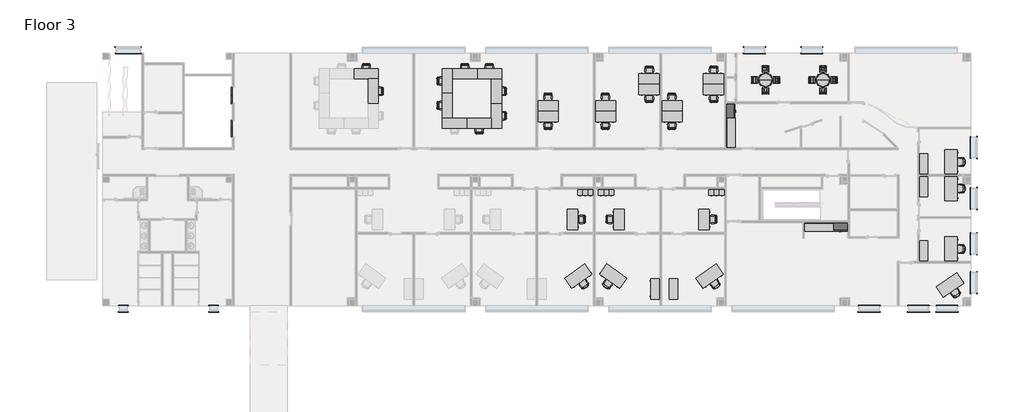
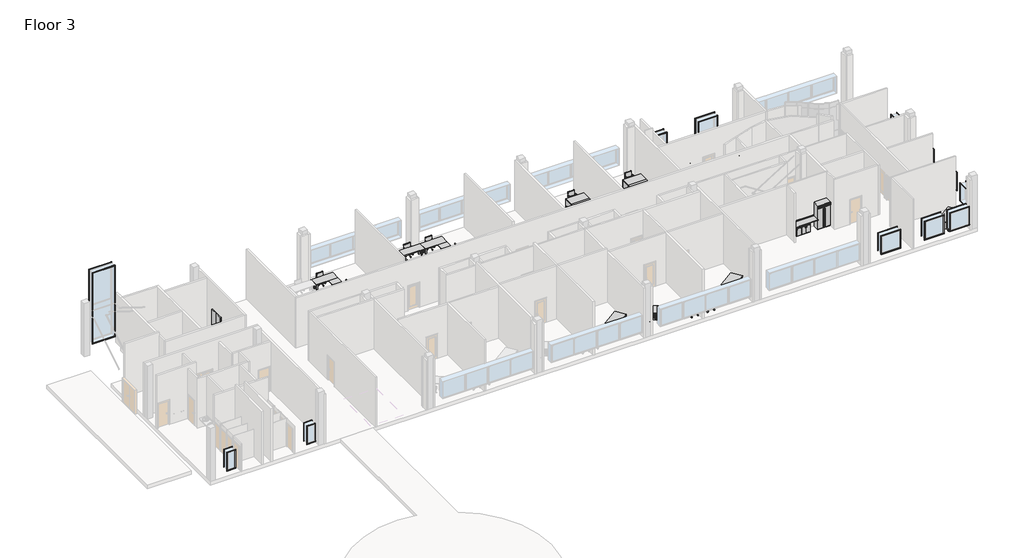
# One storey, part 6 of 6: 89 furniture elements, 28 proxies.
"""IFC4 building model written with IfcOpenShell, lengths in millimetres."""

from ifc_helpers import new_model, si_unit, origin, place, context, project, spatial, transform, mapped, element, save
from components import proxy_ae548678, proxy_0447ab4b, trim_window_exterior_flat_with_sill_05ca63db, trim_window_exterior_flat_with_sill_953729a5, trim_window_exterior_flat_with_sill_4912eb0d, trim_window_interior_flat_picture_frame_a1a3bc7c, trim_window_interior_flat_picture_frame_4e25f6c2, trim_window_interior_flat_picture_frame_978fd00d, furniture_338da5bd, furniture_552c1472, furniture_48aa8ab9, chair_executive_chair_executive_8d69e98c, chair_executive_chair_executive_a5be4872, chair_stacking_chair_stacking_76f41a28, chair_task_arms_chair_task_arms_fa5a08ef, chair_task_arms_chair_task_arms_3c69ee15, furniture_b725675f, furniture_6bf0da8d, furniture_0f0bb7e9, furniture_a9e97cbc, furniture_f1eb905c, furniture_e30ff25b, furniture_33f25304, furniture_65204735, furniture_a5b052b6, furniture_77f0a01d

model = new_model("IFC4")

# Units and contexts
model_context = context("Model", 3, world=origin())
ifc_project = project(units=[si_unit("LENGTHUNIT", "METRE", prefix="MILLI")], contexts=[model_context])

# Site, building, storey
site = spatial("IfcSite", under=ifc_project)
building = spatial("IfcBuilding", under=site)
storey = spatial("IfcBuildingStorey", under=building, Name="Floor 3", Elevation=10210.8)

# Proxies
placement = place(None, origin())
proxy_shape = proxy_ae548678(model_context)
element("IfcBuildingElementProxy", 1, Name="Elevator-Center : 72\" x 114\" Hospital min.", ObjectType="Elevator-Center : 72\" x 114\" Hospital min.", at=placement, inside=storey, context=model_context, shape_type="MappedRepresentation", body=[
    mapped(proxy_shape, transform((6707.2192024, 51882.5975333, 10210.8), x_axis=(0.0, 1.0, 0.0), y_axis=(-1.0, 0.0, 0.0), z_axis=(0.0, 0.0, 1.0))),
])
element("IfcBuildingElementProxy", 2, Name="Elevator-Center : 72\" x 114\" Hospital min.", ObjectType="Elevator-Center : 72\" x 114\" Hospital min.", at=placement, inside=storey, context=model_context, shape_type="MappedRepresentation", body=[
    mapped(proxy_shape, transform((6707.2192024, 54320.9975333, 10210.8), x_axis=(0.0, 1.0, 0.0), y_axis=(-1.0, 0.0, 0.0), z_axis=(0.0, 0.0, 1.0))),
])
proxy_2_shape = proxy_0447ab4b(model_context)
element("IfcBuildingElementProxy", 3, Name="Refrigerator-Side-by-Side : 42\" Left Side Freezer", ObjectType="Refrigerator-Side-by-Side : 42\" Left Side Freezer", at=placement, inside=storey, context=model_context, shape_type="MappedRepresentation", body=[
    mapped(proxy_2_shape, transform((51838.2567024, 44868.311889, 10210.8), x_axis=(1.0, 0.0, 0.0), y_axis=(0.0, 1.0, 0.0), z_axis=(0.0, 0.0, 1.0))),
])
element("IfcBuildingElementProxy", 4, Name="Refrigerator-Side-by-Side : 42\" Left Side Freezer", ObjectType="Refrigerator-Side-by-Side : 42\" Left Side Freezer", at=placement, inside=storey, context=model_context, shape_type="MappedRepresentation", body=[
    mapped(proxy_2_shape, transform((43251.4692024, 53086.799389, 10210.8), x_axis=(0.0, 1.0, 0.0), y_axis=(-1.0, 0.0, 0.0), z_axis=(0.0, 0.0, 1.0))),
])
trim_window_exterior_flat_with_sill_shape = trim_window_exterior_flat_with_sill_05ca63db(model_context)
element("IfcBuildingElementProxy", 5, Name="Trim-Window-Exterior-Flat : with Sill", ObjectType="Trim-Window-Exterior-Flat : with Sill", at=placement, inside=storey, context=model_context, shape_type="MappedRepresentation", body=[
    mapped(trim_window_exterior_flat_with_sill_shape, transform((61956.9817024, 43210.961889, 12649.2), x_axis=(0.0, 1.0, 0.0), y_axis=(0.0, 0.0, 1.0), z_axis=(1.0, 0.0, 0.0))),
])
element("IfcBuildingElementProxy", 6, Name="Trim-Window-Exterior-Flat : with Sill", ObjectType="Trim-Window-Exterior-Flat : with Sill", at=placement, inside=storey, context=model_context, shape_type="MappedRepresentation", body=[
    mapped(trim_window_exterior_flat_with_sill_shape, transform((61956.9817024, 46563.761889, 12649.2), x_axis=(0.0, 1.0, 0.0), y_axis=(0.0, 0.0, 1.0), z_axis=(1.0, 0.0, 0.0))),
])
element("IfcBuildingElementProxy", 7, Name="Trim-Window-Exterior-Flat : with Sill", ObjectType="Trim-Window-Exterior-Flat : with Sill", at=placement, inside=storey, context=model_context, shape_type="MappedRepresentation", body=[
    mapped(trim_window_exterior_flat_with_sill_shape, transform((61956.9817024, 40315.361889, 12649.2), x_axis=(0.0, 1.0, 0.0), y_axis=(0.0, 0.0, 1.0), z_axis=(1.0, 0.0, 0.0))),
])
element("IfcBuildingElementProxy", 8, Name="Trim-Window-Exterior-Flat : with Sill", ObjectType="Trim-Window-Exterior-Flat : with Sill", at=placement, inside=storey, context=model_context, shape_type="MappedRepresentation", body=[
    mapped(trim_window_exterior_flat_with_sill_shape, transform((61956.9817024, 50354.711889, 12649.2), x_axis=(0.0, 1.0, 0.0), y_axis=(0.0, 0.0, 1.0), z_axis=(1.0, 0.0, 0.0))),
])
element("IfcBuildingElementProxy", 9, Name="Trim-Window-Exterior-Flat : with Sill", ObjectType="Trim-Window-Exterior-Flat : with Sill", at=placement, inside=storey, context=model_context, shape_type="MappedRepresentation", body=[
    mapped(trim_window_exterior_flat_with_sill_shape, transform((59742.4192024, 38164.299389, 12649.2), x_axis=(1.0, 0.0, 0.0), y_axis=(0.0, 0.0, 1.0), z_axis=(0.0, -1.0, 0.0))),
])
element("IfcBuildingElementProxy", 10, Name="Trim-Window-Exterior-Flat : with Sill", ObjectType="Trim-Window-Exterior-Flat : with Sill", at=placement, inside=storey, context=model_context, shape_type="MappedRepresentation", body=[
    mapped(trim_window_exterior_flat_with_sill_shape, transform((57608.8192024, 38164.299389, 12649.2), x_axis=(1.0, 0.0, 0.0), y_axis=(0.0, 0.0, 1.0), z_axis=(0.0, -1.0, 0.0))),
])
element("IfcBuildingElementProxy", 11, Name="Trim-Window-Exterior-Flat : with Sill", ObjectType="Trim-Window-Exterior-Flat : with Sill", at=placement, inside=storey, context=model_context, shape_type="MappedRepresentation", body=[
    mapped(trim_window_exterior_flat_with_sill_shape, transform((53951.2192024, 38164.299389, 12649.2), x_axis=(1.0, 0.0, 0.0), y_axis=(0.0, 0.0, 1.0), z_axis=(0.0, -1.0, 0.0))),
])
element("IfcBuildingElementProxy", 12, Name="Trim-Window-Exterior-Flat : with Sill", ObjectType="Trim-Window-Exterior-Flat : with Sill", at=placement, inside=storey, context=model_context, shape_type="MappedRepresentation", body=[
    mapped(trim_window_exterior_flat_with_sill_shape, transform((45423.1692024, 57820.724389, 12649.2), x_axis=(-1.0, 0.0, 0.0), y_axis=(0.0, 0.0, 1.0), z_axis=(0.0, 1.0, 0.0))),
])
element("IfcBuildingElementProxy", 13, Name="Trim-Window-Exterior-Flat : with Sill", ObjectType="Trim-Window-Exterior-Flat : with Sill", at=placement, inside=storey, context=model_context, shape_type="MappedRepresentation", body=[
    mapped(trim_window_exterior_flat_with_sill_shape, transform((49690.3692024, 57820.724389, 12649.2), x_axis=(-1.0, 0.0, 0.0), y_axis=(0.0, 0.0, 1.0), z_axis=(0.0, 1.0, 0.0))),
])
trim_window_exterior_flat_with_sill_2_shape = trim_window_exterior_flat_with_sill_953729a5(model_context)
element("IfcBuildingElementProxy", 14, Name="Trim-Window-Exterior-Flat : with Sill", ObjectType="Trim-Window-Exterior-Flat : with Sill", at=placement, inside=storey, context=model_context, shape_type="MappedRepresentation", body=[
    mapped(trim_window_exterior_flat_with_sill_2_shape, transform((-1084.2307976, 57820.724389, 17068.8), x_axis=(-1.0, 0.0, 0.0), y_axis=(0.0, 0.0, 1.0), z_axis=(0.0, 1.0, 0.0))),
])
trim_window_exterior_flat_with_sill_3_shape = trim_window_exterior_flat_with_sill_4912eb0d(model_context)
element("IfcBuildingElementProxy", 15, Name="Trim-Window-Exterior-Flat : with Sill", ObjectType="Trim-Window-Exterior-Flat : with Sill", at=placement, inside=storey, context=model_context, shape_type="MappedRepresentation", body=[
    mapped(trim_window_exterior_flat_with_sill_3_shape, transform((-1446.1807976, 38164.299389, 12649.2), x_axis=(1.0, 0.0, 0.0), y_axis=(0.0, 0.0, 1.0), z_axis=(0.0, -1.0, 0.0))),
])
element("IfcBuildingElementProxy", 16, Name="Trim-Window-Exterior-Flat : with Sill", ObjectType="Trim-Window-Exterior-Flat : with Sill", at=placement, inside=storey, context=model_context, shape_type="MappedRepresentation", body=[
    mapped(trim_window_exterior_flat_with_sill_3_shape, transform((5259.4192024, 38164.299389, 12649.2), x_axis=(1.0, 0.0, 0.0), y_axis=(0.0, 0.0, 1.0), z_axis=(0.0, -1.0, 0.0))),
])
trim_window_interior_flat_picture_frame_shape = trim_window_interior_flat_picture_frame_a1a3bc7c(model_context)
element("IfcBuildingElementProxy", 17, Name="Trim-Window-Interior-Flat : Picture Frame", ObjectType="Trim-Window-Interior-Flat : Picture Frame", at=placement, inside=storey, context=model_context, shape_type="MappedRepresentation", body=[
    mapped(trim_window_interior_flat_picture_frame_shape, transform((61502.9567024, 43210.961889, 12649.2), x_axis=(0.0, -1.0, 0.0), y_axis=(0.0, 0.0, 1.0), z_axis=(-1.0, 0.0, 0.0))),
])
element("IfcBuildingElementProxy", 18, Name="Trim-Window-Interior-Flat : Picture Frame", ObjectType="Trim-Window-Interior-Flat : Picture Frame", at=placement, inside=storey, context=model_context, shape_type="MappedRepresentation", body=[
    mapped(trim_window_interior_flat_picture_frame_shape, transform((61502.9567024, 46563.761889, 12649.2), x_axis=(0.0, -1.0, 0.0), y_axis=(0.0, 0.0, 1.0), z_axis=(-1.0, 0.0, 0.0))),
])
element("IfcBuildingElementProxy", 19, Name="Trim-Window-Interior-Flat : Picture Frame", ObjectType="Trim-Window-Interior-Flat : Picture Frame", at=placement, inside=storey, context=model_context, shape_type="MappedRepresentation", body=[
    mapped(trim_window_interior_flat_picture_frame_shape, transform((61502.9567024, 40315.361889, 12649.2), x_axis=(0.0, -1.0, 0.0), y_axis=(0.0, 0.0, 1.0), z_axis=(-1.0, 0.0, 0.0))),
])
element("IfcBuildingElementProxy", 20, Name="Trim-Window-Interior-Flat : Picture Frame", ObjectType="Trim-Window-Interior-Flat : Picture Frame", at=placement, inside=storey, context=model_context, shape_type="MappedRepresentation", body=[
    mapped(trim_window_interior_flat_picture_frame_shape, transform((61502.9567024, 50354.711889, 12649.2), x_axis=(0.0, -1.0, 0.0), y_axis=(0.0, 0.0, 1.0), z_axis=(-1.0, 0.0, 0.0))),
])
element("IfcBuildingElementProxy", 21, Name="Trim-Window-Interior-Flat : Picture Frame", ObjectType="Trim-Window-Interior-Flat : Picture Frame", at=placement, inside=storey, context=model_context, shape_type="MappedRepresentation", body=[
    mapped(trim_window_interior_flat_picture_frame_shape, transform((59742.4192024, 38618.324389, 12649.2), x_axis=(-1.0, 0.0, 0.0), y_axis=(0.0, 0.0, 1.0), z_axis=(0.0, 1.0, 0.0))),
])
element("IfcBuildingElementProxy", 22, Name="Trim-Window-Interior-Flat : Picture Frame", ObjectType="Trim-Window-Interior-Flat : Picture Frame", at=placement, inside=storey, context=model_context, shape_type="MappedRepresentation", body=[
    mapped(trim_window_interior_flat_picture_frame_shape, transform((57608.8192024, 38618.324389, 12649.2), x_axis=(-1.0, 0.0, 0.0), y_axis=(0.0, 0.0, 1.0), z_axis=(0.0, 1.0, 0.0))),
])
element("IfcBuildingElementProxy", 23, Name="Trim-Window-Interior-Flat : Picture Frame", ObjectType="Trim-Window-Interior-Flat : Picture Frame", at=placement, inside=storey, context=model_context, shape_type="MappedRepresentation", body=[
    mapped(trim_window_interior_flat_picture_frame_shape, transform((53951.2192024, 38618.324389, 12649.2), x_axis=(-1.0, 0.0, 0.0), y_axis=(0.0, 0.0, 1.0), z_axis=(0.0, 1.0, 0.0))),
])
element("IfcBuildingElementProxy", 24, Name="Trim-Window-Interior-Flat : Picture Frame", ObjectType="Trim-Window-Interior-Flat : Picture Frame", at=placement, inside=storey, context=model_context, shape_type="MappedRepresentation", body=[
    mapped(trim_window_interior_flat_picture_frame_shape, transform((45423.1692024, 57366.699389, 12649.2), x_axis=(1.0, 0.0, 0.0), y_axis=(0.0, 0.0, 1.0), z_axis=(0.0, -1.0, 0.0))),
])
element("IfcBuildingElementProxy", 25, Name="Trim-Window-Interior-Flat : Picture Frame", ObjectType="Trim-Window-Interior-Flat : Picture Frame", at=placement, inside=storey, context=model_context, shape_type="MappedRepresentation", body=[
    mapped(trim_window_interior_flat_picture_frame_shape, transform((49690.3692024, 57366.699389, 12649.2), x_axis=(1.0, 0.0, 0.0), y_axis=(0.0, 0.0, 1.0), z_axis=(0.0, -1.0, 0.0))),
])
trim_window_interior_flat_picture_frame_2_shape = trim_window_interior_flat_picture_frame_4e25f6c2(model_context)
element("IfcBuildingElementProxy", 26, Name="Trim-Window-Interior-Flat : Picture Frame", ObjectType="Trim-Window-Interior-Flat : Picture Frame", at=placement, inside=storey, context=model_context, shape_type="MappedRepresentation", body=[
    mapped(trim_window_interior_flat_picture_frame_2_shape, transform((-1084.2307976, 57366.699389, 17068.8), x_axis=(1.0, 0.0, 0.0), y_axis=(0.0, 0.0, 1.0), z_axis=(0.0, -1.0, 0.0))),
])
trim_window_interior_flat_picture_frame_3_shape = trim_window_interior_flat_picture_frame_978fd00d(model_context)
element("IfcBuildingElementProxy", 27, Name="Trim-Window-Interior-Flat : Picture Frame", ObjectType="Trim-Window-Interior-Flat : Picture Frame", at=placement, inside=storey, context=model_context, shape_type="MappedRepresentation", body=[
    mapped(trim_window_interior_flat_picture_frame_3_shape, transform((-1446.1807976, 38618.324389, 12649.2), x_axis=(-1.0, 0.0, 0.0), y_axis=(0.0, 0.0, 1.0), z_axis=(0.0, 1.0, 0.0))),
])
element("IfcBuildingElementProxy", 28, Name="Trim-Window-Interior-Flat : Picture Frame", ObjectType="Trim-Window-Interior-Flat : Picture Frame", at=placement, inside=storey, context=model_context, shape_type="MappedRepresentation", body=[
    mapped(trim_window_interior_flat_picture_frame_3_shape, transform((5259.4192024, 38618.324389, 12649.2), x_axis=(-1.0, 0.0, 0.0), y_axis=(0.0, 0.0, 1.0), z_axis=(0.0, 1.0, 0.0))),
])

# Furniture
furniture_shape = furniture_338da5bd(model_context)
element("IfcFurniture", 29, ObjectType="Base Cabinet-Double Door & 2 Drawer : 30\"", at=placement, inside=storey, context=model_context, shape_type="MappedRepresentation", body=[
    mapped(furniture_shape, transform((49498.5939974, 44766.711889, 10210.8), x_axis=(1.0, 0.0, 0.0), y_axis=(0.0, 1.0, 0.0), z_axis=(0.0, 0.0, 1.0))),
])
element("IfcFurniture", 30, ObjectType="Base Cabinet-Double Door & 2 Drawer : 30\"", at=placement, inside=storey, context=model_context, shape_type="MappedRepresentation", body=[
    mapped(furniture_shape, transform((50260.5939974, 44766.711889, 10210.8), x_axis=(1.0, 0.0, 0.0), y_axis=(0.0, 1.0, 0.0), z_axis=(0.0, 0.0, 1.0))),
])
element("IfcFurniture", 31, ObjectType="Base Cabinet-Double Door & 2 Drawer : 30\"", at=placement, inside=storey, context=model_context, shape_type="MappedRepresentation", body=[
    mapped(furniture_shape, transform((43353.0692024, 50691.5741841, 10210.8), x_axis=(0.0, 1.0, 0.0), y_axis=(-1.0, 0.0, 0.0), z_axis=(0.0, 0.0, 1.0))),
])
element("IfcFurniture", 32, ObjectType="Base Cabinet-Double Door & 2 Drawer : 30\"", at=placement, inside=storey, context=model_context, shape_type="MappedRepresentation", body=[
    mapped(furniture_shape, transform((43353.0692024, 51453.5741841, 10210.8), x_axis=(0.0, 1.0, 0.0), y_axis=(-1.0, 0.0, 0.0), z_axis=(0.0, 0.0, 1.0))),
])
furniture_2_shape = furniture_552c1472(model_context)
element("IfcFurniture", 33, ObjectType="Cabinet-File 3 Drawer : 15\" x 18\"", at=placement, inside=storey, context=model_context, shape_type="MappedRepresentation", body=[
    mapped(furniture_2_shape, transform((34162.3406494, 47175.7961891, 10210.8), x_axis=(1.0, 0.0, 0.0), y_axis=(0.0, 1.0, 0.0), z_axis=(0.0, 0.0, 1.0))),
])
element("IfcFurniture", 34, ObjectType="Cabinet-File 3 Drawer : 15\" x 18\"", at=placement, inside=storey, context=model_context, shape_type="MappedRepresentation", body=[
    mapped(furniture_2_shape, transform((34543.3406494, 47175.7961891, 10210.8), x_axis=(1.0, 0.0, 0.0), y_axis=(0.0, 1.0, 0.0), z_axis=(0.0, 0.0, 1.0))),
])
element("IfcFurniture", 35, ObjectType="Cabinet-File 3 Drawer : 15\" x 18\"", at=placement, inside=storey, context=model_context, shape_type="MappedRepresentation", body=[
    mapped(furniture_2_shape, transform((34924.3406494, 47175.7961891, 10210.8), x_axis=(1.0, 0.0, 0.0), y_axis=(0.0, 1.0, 0.0), z_axis=(0.0, 0.0, 1.0))),
])
furniture_3_shape = furniture_48aa8ab9(model_context)
element("IfcFurniture", 36, ObjectType="Cabinet-File 3 Drawer : 15\" x 18\"", at=placement, inside=storey, context=model_context, shape_type="MappedRepresentation", body=[
    mapped(furniture_3_shape, transform((33115.9727553, 47175.7961891, 10210.8), x_axis=(-1.0, 0.0, 0.0), y_axis=(0.0, -1.0, 0.0), z_axis=(0.0, 0.0, 1.0))),
])
element("IfcFurniture", 37, ObjectType="Cabinet-File 3 Drawer : 15\" x 18\"", at=placement, inside=storey, context=model_context, shape_type="MappedRepresentation", body=[
    mapped(furniture_3_shape, transform((32734.9727553, 47175.7961891, 10210.8), x_axis=(-1.0, 0.0, 0.0), y_axis=(0.0, -1.0, 0.0), z_axis=(0.0, 0.0, 1.0))),
])
element("IfcFurniture", 38, ObjectType="Cabinet-File 3 Drawer : 15\" x 18\"", at=placement, inside=storey, context=model_context, shape_type="MappedRepresentation", body=[
    mapped(furniture_3_shape, transform((32353.9727553, 47175.7961891, 10210.8), x_axis=(-1.0, 0.0, 0.0), y_axis=(0.0, -1.0, 0.0), z_axis=(0.0, 0.0, 1.0))),
])
element("IfcFurniture", 39, ObjectType="Cabinet-File 3 Drawer : 15\" x 18\"", at=placement, inside=storey, context=model_context, shape_type="MappedRepresentation", body=[
    mapped(furniture_3_shape, transform((42872.7477553, 47175.7961891, 10210.8), x_axis=(-1.0, 0.0, 0.0), y_axis=(0.0, -1.0, 0.0), z_axis=(0.0, 0.0, 1.0))),
])
element("IfcFurniture", 40, ObjectType="Cabinet-File 3 Drawer : 15\" x 18\"", at=placement, inside=storey, context=model_context, shape_type="MappedRepresentation", body=[
    mapped(furniture_3_shape, transform((42491.7477553, 47175.7961891, 10210.8), x_axis=(-1.0, 0.0, 0.0), y_axis=(0.0, -1.0, 0.0), z_axis=(0.0, 0.0, 1.0))),
])
element("IfcFurniture", 41, ObjectType="Cabinet-File 3 Drawer : 15\" x 18\"", at=placement, inside=storey, context=model_context, shape_type="MappedRepresentation", body=[
    mapped(furniture_3_shape, transform((42110.7477553, 47175.7961891, 10210.8), x_axis=(-1.0, 0.0, 0.0), y_axis=(0.0, -1.0, 0.0), z_axis=(0.0, 0.0, 1.0))),
])
chair_executive_chair_executive_shape = chair_executive_chair_executive_8d69e98c(model_context)
element("IfcFurniture", 42, ObjectType="Chair-Executive : Chair-Executive", at=placement, inside=storey, context=model_context, shape_type="MappedRepresentation", body=[
    mapped(chair_executive_chair_executive_shape, transform((34421.770015, 40313.6122918, 10210.8), x_axis=(0.819152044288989, -0.57357643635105, 0.0), y_axis=(0.57357643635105, 0.819152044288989, 0.0), z_axis=(0.0, 0.0, 1.0))),
])
element("IfcFurniture", 43, ObjectType="Chair-Executive : Chair-Executive", at=placement, inside=storey, context=model_context, shape_type="MappedRepresentation", body=[
    mapped(chair_executive_chair_executive_shape, transform((60745.1356072, 47167.3085693, 10210.8), x_axis=(0.0, 1.0, 0.0), y_axis=(-1.0, 0.0, 0.0), z_axis=(0.0, 0.0, 1.0))),
])
chair_executive_chair_executive_2_shape = chair_executive_chair_executive_a5be4872(model_context)
element("IfcFurniture", 44, ObjectType="Chair-Executive : Chair-Executive", at=placement, inside=storey, context=model_context, shape_type="MappedRepresentation", body=[
    mapped(chair_executive_chair_executive_2_shape, transform((32856.5433897, 40313.6122918, 10210.8), x_axis=(-0.819152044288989, -0.57357643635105, 0.0), y_axis=(0.57357643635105, -0.819152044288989, 0.0), z_axis=(0.0, 0.0, 1.0))),
])
element("IfcFurniture", 45, ObjectType="Chair-Executive : Chair-Executive", at=placement, inside=storey, context=model_context, shape_type="MappedRepresentation", body=[
    mapped(chair_executive_chair_executive_2_shape, transform((42613.3183897, 40313.6122918, 10210.8), x_axis=(-0.819152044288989, -0.57357643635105, 0.0), y_axis=(0.57357643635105, -0.819152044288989, 0.0), z_axis=(0.0, 0.0, 1.0))),
])
element("IfcFurniture", 46, ObjectType="Chair-Executive : Chair-Executive", at=placement, inside=storey, context=model_context, shape_type="MappedRepresentation", body=[
    mapped(chair_executive_chair_executive_2_shape, transform((60471.9435605, 39658.0167973, 10210.8), x_axis=(-0.819152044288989, -0.57357643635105, 0.0), y_axis=(0.57357643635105, -0.819152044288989, 0.0), z_axis=(0.0, 0.0, 1.0))),
])
element("IfcFurniture", 47, ObjectType="Chair-Executive : Chair-Executive", at=placement, inside=storey, context=model_context, shape_type="MappedRepresentation", body=[
    mapped(chair_executive_chair_executive_2_shape, transform((60745.1356072, 42969.3652087, 10210.8), x_axis=(0.0, -1.0, 0.0), y_axis=(1.0, 0.0, 0.0), z_axis=(0.0, 0.0, 1.0))),
])
element("IfcFurniture", 48, ObjectType="Chair-Executive : Chair-Executive", at=placement, inside=storey, context=model_context, shape_type="MappedRepresentation", body=[
    mapped(chair_executive_chair_executive_2_shape, transform((60745.1356072, 49427.3152087, 10210.8), x_axis=(0.0, -1.0, 0.0), y_axis=(1.0, 0.0, 0.0), z_axis=(0.0, 0.0, 1.0))),
])
chair_stacking_chair_stacking_shape = chair_stacking_chair_stacking_76f41a28(model_context)
element("IfcFurniture", 49, ObjectType="Chair-Stacking : Chair-Stacking", at=placement, inside=storey, context=model_context, shape_type="MappedRepresentation", body=[
    mapped(chair_stacking_chair_stacking_shape, transform((50701.2683827, 54457.5746587, 10210.8), x_axis=(1.0, 0.0, 0.0), y_axis=(0.0, 1.0, 0.0), z_axis=(0.0, 0.0, 1.0))),
])
element("IfcFurniture", 50, ObjectType="Chair-Stacking : Chair-Stacking", at=placement, inside=storey, context=model_context, shape_type="MappedRepresentation", body=[
    mapped(chair_stacking_chair_stacking_shape, transform((51443.9706259, 55558.3752626, 10210.8), x_axis=(0.0, 1.0, 0.0), y_axis=(-1.0, 0.0, 0.0), z_axis=(0.0, 0.0, 1.0))),
])
element("IfcFurniture", 51, ObjectType="Chair-Stacking : Chair-Stacking", at=placement, inside=storey, context=model_context, shape_type="MappedRepresentation", body=[
    mapped(chair_stacking_chair_stacking_shape, transform((50343.170022, 56301.0775058, 10210.8), x_axis=(-1.0, 0.0, 0.0), y_axis=(0.0, -1.0, 0.0), z_axis=(0.0, 0.0, 1.0))),
])
element("IfcFurniture", 52, ObjectType="Chair-Stacking : Chair-Stacking", at=placement, inside=storey, context=model_context, shape_type="MappedRepresentation", body=[
    mapped(chair_stacking_chair_stacking_shape, transform((49600.4677788, 55200.276902, 10210.8), x_axis=(0.0, -1.0, 0.0), y_axis=(1.0, 0.0, 0.0), z_axis=(0.0, 0.0, 1.0))),
])
element("IfcFurniture", 53, ObjectType="Chair-Stacking : Chair-Stacking", at=placement, inside=storey, context=model_context, shape_type="MappedRepresentation", body=[
    mapped(chair_stacking_chair_stacking_shape, transform((46434.0683827, 54457.5746587, 10210.8), x_axis=(1.0, 0.0, 0.0), y_axis=(0.0, 1.0, 0.0), z_axis=(0.0, 0.0, 1.0))),
])
element("IfcFurniture", 54, ObjectType="Chair-Stacking : Chair-Stacking", at=placement, inside=storey, context=model_context, shape_type="MappedRepresentation", body=[
    mapped(chair_stacking_chair_stacking_shape, transform((47176.7706259, 55558.3752626, 10210.8), x_axis=(0.0, 1.0, 0.0), y_axis=(-1.0, 0.0, 0.0), z_axis=(0.0, 0.0, 1.0))),
])
element("IfcFurniture", 55, ObjectType="Chair-Stacking : Chair-Stacking", at=placement, inside=storey, context=model_context, shape_type="MappedRepresentation", body=[
    mapped(chair_stacking_chair_stacking_shape, transform((46075.970022, 56301.0775058, 10210.8), x_axis=(-1.0, 0.0, 0.0), y_axis=(0.0, -1.0, 0.0), z_axis=(0.0, 0.0, 1.0))),
])
element("IfcFurniture", 56, ObjectType="Chair-Stacking : Chair-Stacking", at=placement, inside=storey, context=model_context, shape_type="MappedRepresentation", body=[
    mapped(chair_stacking_chair_stacking_shape, transform((45333.2677788, 55200.276902, 10210.8), x_axis=(0.0, -1.0, 0.0), y_axis=(1.0, 0.0, 0.0), z_axis=(0.0, 0.0, 1.0))),
])
chair_task_arms_chair_task_arms_shape = chair_task_arms_chair_task_arms_fa5a08ef(model_context)
element("IfcFurniture", 57, ObjectType="Chair-Task Arms : Chair-Task Arms", at=placement, inside=storey, context=model_context, shape_type="MappedRepresentation", body=[
    mapped(chair_task_arms_chair_task_arms_shape, transform((34656.8483007, 45161.7027087, 10210.8), x_axis=(0.0, -1.0, 0.0), y_axis=(1.0, 0.0, 0.0), z_axis=(0.0, 0.0, 1.0))),
])
element("IfcFurniture", 58, ObjectType="Chair-Task Arms : Chair-Task Arms", at=placement, inside=storey, context=model_context, shape_type="MappedRepresentation", body=[
    mapped(chair_task_arms_chair_task_arms_shape, transform((17603.715104, 54401.6924709, 10210.8), x_axis=(0.0, 1.0, 0.0), y_axis=(-1.0, 0.0, 0.0), z_axis=(0.0, 0.0, 1.0))),
])
element("IfcFurniture", 59, ObjectType="Chair-Task Arms : Chair-Task Arms", at=placement, inside=storey, context=model_context, shape_type="MappedRepresentation", body=[
    mapped(chair_task_arms_chair_task_arms_shape, transform((16727.8004892, 56317.2577906, 10210.8), x_axis=(-1.0, 0.0, 0.0), y_axis=(0.0, -1.0, 0.0), z_axis=(0.0, 0.0, 1.0))),
])
element("IfcFurniture", 60, ObjectType="Chair-Task Arms : Chair-Task Arms", at=placement, inside=storey, context=model_context, shape_type="MappedRepresentation", body=[
    mapped(chair_task_arms_chair_task_arms_shape, transform((24840.5188499, 51632.7534874, 10210.8), x_axis=(1.0, 0.0, 0.0), y_axis=(0.0, 1.0, 0.0), z_axis=(0.0, 0.0, 1.0))),
])
element("IfcFurniture", 61, ObjectType="Chair-Task Arms : Chair-Task Arms", at=placement, inside=storey, context=model_context, shape_type="MappedRepresentation", body=[
    mapped(chair_task_arms_chair_task_arms_shape, transform((26747.715104, 52572.8924709, 10210.8), x_axis=(0.0, 1.0, 0.0), y_axis=(-1.0, 0.0, 0.0), z_axis=(0.0, 0.0, 1.0))),
])
element("IfcFurniture", 62, ObjectType="Chair-Task Arms : Chair-Task Arms", at=placement, inside=storey, context=model_context, shape_type="MappedRepresentation", body=[
    mapped(chair_task_arms_chair_task_arms_shape, transform((26747.715104, 54401.6924709, 10210.8), x_axis=(0.0, 1.0, 0.0), y_axis=(-1.0, 0.0, 0.0), z_axis=(0.0, 0.0, 1.0))),
])
element("IfcFurniture", 63, ObjectType="Chair-Task Arms : Chair-Task Arms", at=placement, inside=storey, context=model_context, shape_type="MappedRepresentation", body=[
    mapped(chair_task_arms_chair_task_arms_shape, transform((25871.8004892, 56317.2577906, 10210.8), x_axis=(-1.0, 0.0, 0.0), y_axis=(0.0, -1.0, 0.0), z_axis=(0.0, 0.0, 1.0))),
])
element("IfcFurniture", 64, ObjectType="Chair-Task Arms : Chair-Task Arms", at=placement, inside=storey, context=model_context, shape_type="MappedRepresentation", body=[
    mapped(chair_task_arms_chair_task_arms_shape, transform((24055.7004892, 56317.2577906, 10210.8), x_axis=(-1.0, 0.0, 0.0), y_axis=(0.0, -1.0, 0.0), z_axis=(0.0, 0.0, 1.0))),
])
element("IfcFurniture", 65, ObjectType="Chair-Task Arms : Chair-Task Arms", at=placement, inside=storey, context=model_context, shape_type="MappedRepresentation", body=[
    mapped(chair_task_arms_chair_task_arms_shape, transform((22112.4233007, 55445.6741102, 10210.8), x_axis=(0.0, -1.0, 0.0), y_axis=(1.0, 0.0, 0.0), z_axis=(0.0, 0.0, 1.0))),
])
element("IfcFurniture", 66, ObjectType="Chair-Task Arms : Chair-Task Arms", at=placement, inside=storey, context=model_context, shape_type="MappedRepresentation", body=[
    mapped(chair_task_arms_chair_task_arms_shape, transform((22112.4233007, 53616.8741102, 10210.8), x_axis=(0.0, -1.0, 0.0), y_axis=(1.0, 0.0, 0.0), z_axis=(0.0, 0.0, 1.0))),
])
element("IfcFurniture", 67, ObjectType="Chair-Task Arms : Chair-Task Arms", at=placement, inside=storey, context=model_context, shape_type="MappedRepresentation", body=[
    mapped(chair_task_arms_chair_task_arms_shape, transform((42259.5783827, 53971.9777354, 10210.8), x_axis=(1.0, 0.0, 0.0), y_axis=(0.0, 1.0, 0.0), z_axis=(0.0, 0.0, 1.0))),
])
element("IfcFurniture", 68, ObjectType="Chair-Task Arms : Chair-Task Arms", at=placement, inside=storey, context=model_context, shape_type="MappedRepresentation", body=[
    mapped(chair_task_arms_chair_task_arms_shape, transform((39154.4283827, 51960.0555832, 10210.8), x_axis=(1.0, 0.0, 0.0), y_axis=(0.0, 1.0, 0.0), z_axis=(0.0, 0.0, 1.0))),
])
element("IfcFurniture", 69, ObjectType="Chair-Task Arms : Chair-Task Arms", at=placement, inside=storey, context=model_context, shape_type="MappedRepresentation", body=[
    mapped(chair_task_arms_chair_task_arms_shape, transform((37474.8533827, 53971.9777354, 10210.8), x_axis=(1.0, 0.0, 0.0), y_axis=(0.0, 1.0, 0.0), z_axis=(0.0, 0.0, 1.0))),
])
element("IfcFurniture", 70, ObjectType="Chair-Task Arms : Chair-Task Arms", at=placement, inside=storey, context=model_context, shape_type="MappedRepresentation", body=[
    mapped(chair_task_arms_chair_task_arms_shape, transform((34217.3033827, 51960.0555832, 10210.8), x_axis=(1.0, 0.0, 0.0), y_axis=(0.0, 1.0, 0.0), z_axis=(0.0, 0.0, 1.0))),
])
element("IfcFurniture", 71, ObjectType="Chair-Task Arms : Chair-Task Arms", at=placement, inside=storey, context=model_context, shape_type="MappedRepresentation", body=[
    mapped(chair_task_arms_chair_task_arms_shape, transform((29959.6283827, 51960.0555832, 10210.8), x_axis=(1.0, 0.0, 0.0), y_axis=(0.0, 1.0, 0.0), z_axis=(0.0, 0.0, 1.0))),
])
chair_task_arms_chair_task_arms_2_shape = chair_task_arms_chair_task_arms_3c69ee15(model_context)
element("IfcFurniture", 72, ObjectType="Chair-Task Arms : Chair-Task Arms", at=placement, inside=storey, context=model_context, shape_type="MappedRepresentation", body=[
    mapped(chair_task_arms_chair_task_arms_2_shape, transform((32621.465104, 45161.7027087, 10210.8), x_axis=(0.0, -1.0, 0.0), y_axis=(1.0, 0.0, 0.0), z_axis=(0.0, 0.0, 1.0))),
])
element("IfcFurniture", 73, ObjectType="Chair-Task Arms : Chair-Task Arms", at=placement, inside=storey, context=model_context, shape_type="MappedRepresentation", body=[
    mapped(chair_task_arms_chair_task_arms_2_shape, transform((42378.240104, 45161.7027087, 10210.8), x_axis=(0.0, -1.0, 0.0), y_axis=(1.0, 0.0, 0.0), z_axis=(0.0, 0.0, 1.0))),
])
element("IfcFurniture", 74, ObjectType="Chair-Task Arms : Chair-Task Arms", at=placement, inside=storey, context=model_context, shape_type="MappedRepresentation", body=[
    mapped(chair_task_arms_chair_task_arms_2_shape, transform((42259.5783827, 56143.4695387, 10210.8), x_axis=(1.0, 0.0, 0.0), y_axis=(0.0, 1.0, 0.0), z_axis=(0.0, 0.0, 1.0))),
])
element("IfcFurniture", 75, ObjectType="Chair-Task Arms : Chair-Task Arms", at=placement, inside=storey, context=model_context, shape_type="MappedRepresentation", body=[
    mapped(chair_task_arms_chair_task_arms_2_shape, transform((39154.4283827, 54131.5473865, 10210.8), x_axis=(1.0, 0.0, 0.0), y_axis=(0.0, 1.0, 0.0), z_axis=(0.0, 0.0, 1.0))),
])
element("IfcFurniture", 76, ObjectType="Chair-Task Arms : Chair-Task Arms", at=placement, inside=storey, context=model_context, shape_type="MappedRepresentation", body=[
    mapped(chair_task_arms_chair_task_arms_2_shape, transform((37474.8533827, 56143.4695387, 10210.8), x_axis=(1.0, 0.0, 0.0), y_axis=(0.0, 1.0, 0.0), z_axis=(0.0, 0.0, 1.0))),
])
element("IfcFurniture", 77, ObjectType="Chair-Task Arms : Chair-Task Arms", at=placement, inside=storey, context=model_context, shape_type="MappedRepresentation", body=[
    mapped(chair_task_arms_chair_task_arms_2_shape, transform((34217.3033827, 54131.5473865, 10210.8), x_axis=(1.0, 0.0, 0.0), y_axis=(0.0, 1.0, 0.0), z_axis=(0.0, 0.0, 1.0))),
])
element("IfcFurniture", 78, ObjectType="Chair-Task Arms : Chair-Task Arms", at=placement, inside=storey, context=model_context, shape_type="MappedRepresentation", body=[
    mapped(chair_task_arms_chair_task_arms_2_shape, transform((29959.6283827, 54131.5473865, 10210.8), x_axis=(1.0, 0.0, 0.0), y_axis=(0.0, 1.0, 0.0), z_axis=(0.0, 0.0, 1.0))),
])
furniture_4_shape = furniture_b725675f(model_context)
element("IfcFurniture", 79, ObjectType="Counter Top : 24\" Depth", at=placement, inside=storey, context=model_context, shape_type="MappedRepresentation", body=[
    mapped(furniture_4_shape, transform((50336.7939974, 44766.711889, 10210.8), x_axis=(1.0, 0.0, 0.0), y_axis=(0.0, 1.0, 0.0), z_axis=(0.0, 0.0, 1.0))),
])
furniture_5_shape = furniture_6bf0da8d(model_context)
element("IfcFurniture", 80, ObjectType="Counter Top : 24\" Depth", at=placement, inside=storey, context=model_context, shape_type="MappedRepresentation", body=[
    mapped(furniture_5_shape, transform((43353.0692024, 51529.7741841, 10210.8), x_axis=(0.0, 1.0, 0.0), y_axis=(-1.0, 0.0, 0.0), z_axis=(0.0, 0.0, 1.0))),
])
furniture_6_shape = furniture_0f0bb7e9(model_context)
element("IfcFurniture", 81, ObjectType="Credenza : 60\" x 24\"", at=placement, inside=storey, context=model_context, shape_type="MappedRepresentation", body=[
    mapped(furniture_6_shape, transform((39404.7745302, 39804.9676267, 10210.8), x_axis=(0.0, 1.0, 0.0), y_axis=(-1.0, 0.0, 0.0), z_axis=(0.0, 0.0, 1.0))),
])
element("IfcFurniture", 82, ObjectType="Credenza : 60\" x 24\"", at=placement, inside=storey, context=model_context, shape_type="MappedRepresentation", body=[
    mapped(furniture_6_shape, transform((57986.4620302, 42616.4301267, 10210.8), x_axis=(0.0, 1.0, 0.0), y_axis=(-1.0, 0.0, 0.0), z_axis=(0.0, 0.0, 1.0))),
])
element("IfcFurniture", 83, ObjectType="Credenza : 60\" x 24\"", at=placement, inside=storey, context=model_context, shape_type="MappedRepresentation", body=[
    mapped(furniture_6_shape, transform((57986.4620302, 49074.3801267, 10210.8), x_axis=(0.0, 1.0, 0.0), y_axis=(-1.0, 0.0, 0.0), z_axis=(0.0, 0.0, 1.0))),
])
furniture_7_shape = furniture_a9e97cbc(model_context)
element("IfcFurniture", 84, ObjectType="Credenza : 60\" x 24\"", at=placement, inside=storey, context=model_context, shape_type="MappedRepresentation", body=[
    mapped(furniture_7_shape, transform((38036.7138745, 39804.9676267, 10210.8), x_axis=(0.0, 1.0, 0.0), y_axis=(-1.0, 0.0, 0.0), z_axis=(0.0, 0.0, 1.0))),
])
element("IfcFurniture", 85, ObjectType="Credenza : 60\" x 24\"", at=placement, inside=storey, context=model_context, shape_type="MappedRepresentation", body=[
    mapped(furniture_7_shape, transform((57986.4620302, 47520.2436513, 10210.8), x_axis=(0.0, -1.0, 0.0), y_axis=(1.0, 0.0, 0.0), z_axis=(0.0, 0.0, 1.0))),
])
furniture_8_shape = furniture_f1eb905c(model_context)
element("IfcFurniture", 86, ObjectType="Desk : 60\" x 30\"", at=placement, inside=storey, context=model_context, shape_type="MappedRepresentation", body=[
    mapped(furniture_8_shape, transform((34980.5942024, 45782.711889, 10210.8), x_axis=(0.0, -1.0, 0.0), y_axis=(1.0, 0.0, 0.0), z_axis=(0.0, 0.0, 1.0))),
])
element("IfcFurniture", 87, ObjectType="Desk : 60\" x 30\"", at=placement, inside=storey, context=model_context, shape_type="MappedRepresentation", body=[
    mapped(furniture_8_shape, transform((41638.5692024, 54295.7236371, 10210.8), x_axis=(1.0, 0.0, 0.0), y_axis=(0.0, 1.0, 0.0), z_axis=(0.0, 0.0, 1.0))),
])
element("IfcFurniture", 88, ObjectType="Desk : 60\" x 30\"", at=placement, inside=storey, context=model_context, shape_type="MappedRepresentation", body=[
    mapped(furniture_8_shape, transform((38533.4192024, 52283.8014849, 10210.8), x_axis=(1.0, 0.0, 0.0), y_axis=(0.0, 1.0, 0.0), z_axis=(0.0, 0.0, 1.0))),
])
element("IfcFurniture", 89, ObjectType="Desk : 60\" x 30\"", at=placement, inside=storey, context=model_context, shape_type="MappedRepresentation", body=[
    mapped(furniture_8_shape, transform((36853.8442024, 54295.7236371, 10210.8), x_axis=(1.0, 0.0, 0.0), y_axis=(0.0, 1.0, 0.0), z_axis=(0.0, 0.0, 1.0))),
])
element("IfcFurniture", 90, ObjectType="Desk : 60\" x 30\"", at=placement, inside=storey, context=model_context, shape_type="MappedRepresentation", body=[
    mapped(furniture_8_shape, transform((33596.2942024, 52283.8014849, 10210.8), x_axis=(1.0, 0.0, 0.0), y_axis=(0.0, 1.0, 0.0), z_axis=(0.0, 0.0, 1.0))),
])
element("IfcFurniture", 91, ObjectType="Desk : 60\" x 30\"", at=placement, inside=storey, context=model_context, shape_type="MappedRepresentation", body=[
    mapped(furniture_8_shape, transform((29338.6192024, 52283.8014849, 10210.8), x_axis=(1.0, 0.0, 0.0), y_axis=(0.0, 1.0, 0.0), z_axis=(0.0, 0.0, 1.0))),
])
furniture_9_shape = furniture_e30ff25b(model_context)
element("IfcFurniture", 92, ObjectType="Desk : 60\" x 30\"", at=placement, inside=storey, context=model_context, shape_type="MappedRepresentation", body=[
    mapped(furniture_9_shape, transform((32297.7192024, 45782.711889, 10210.8), x_axis=(0.0, -1.0, 0.0), y_axis=(1.0, 0.0, 0.0), z_axis=(0.0, 0.0, 1.0))),
])
element("IfcFurniture", 93, ObjectType="Desk : 60\" x 30\"", at=placement, inside=storey, context=model_context, shape_type="MappedRepresentation", body=[
    mapped(furniture_9_shape, transform((42054.4942024, 45782.711889, 10210.8), x_axis=(0.0, -1.0, 0.0), y_axis=(1.0, 0.0, 0.0), z_axis=(0.0, 0.0, 1.0))),
])
element("IfcFurniture", 94, ObjectType="Desk : 60\" x 30\"", at=placement, inside=storey, context=model_context, shape_type="MappedRepresentation", body=[
    mapped(furniture_9_shape, transform((41638.5692024, 55819.7236371, 10210.8), x_axis=(1.0, 0.0, 0.0), y_axis=(0.0, 1.0, 0.0), z_axis=(0.0, 0.0, 1.0))),
])
element("IfcFurniture", 95, ObjectType="Desk : 60\" x 30\"", at=placement, inside=storey, context=model_context, shape_type="MappedRepresentation", body=[
    mapped(furniture_9_shape, transform((38533.4192024, 53807.8014849, 10210.8), x_axis=(1.0, 0.0, 0.0), y_axis=(0.0, 1.0, 0.0), z_axis=(0.0, 0.0, 1.0))),
])
element("IfcFurniture", 96, ObjectType="Desk : 60\" x 30\"", at=placement, inside=storey, context=model_context, shape_type="MappedRepresentation", body=[
    mapped(furniture_9_shape, transform((36853.8442024, 55819.7236371, 10210.8), x_axis=(1.0, 0.0, 0.0), y_axis=(0.0, 1.0, 0.0), z_axis=(0.0, 0.0, 1.0))),
])
element("IfcFurniture", 97, ObjectType="Desk : 60\" x 30\"", at=placement, inside=storey, context=model_context, shape_type="MappedRepresentation", body=[
    mapped(furniture_9_shape, transform((33596.2942024, 53807.8014849, 10210.8), x_axis=(1.0, 0.0, 0.0), y_axis=(0.0, 1.0, 0.0), z_axis=(0.0, 0.0, 1.0))),
])
element("IfcFurniture", 98, ObjectType="Desk : 60\" x 30\"", at=placement, inside=storey, context=model_context, shape_type="MappedRepresentation", body=[
    mapped(furniture_9_shape, transform((29338.6192024, 53807.8014849, 10210.8), x_axis=(1.0, 0.0, 0.0), y_axis=(0.0, 1.0, 0.0), z_axis=(0.0, 0.0, 1.0))),
])
furniture_10_shape = furniture_33f25304(model_context)
element("IfcFurniture", 99, ObjectType="Desk : 72\" x 36\"", at=placement, inside=storey, context=model_context, shape_type="MappedRepresentation", body=[
    mapped(furniture_10_shape, transform((34098.7620959, 40935.0056416, 10210.8), x_axis=(0.8191520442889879, -0.5735764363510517, 0.0), y_axis=(0.5735764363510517, 0.8191520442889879, 0.0), z_axis=(0.0, 0.0, 1.0))),
])
element("IfcFurniture", 100, ObjectType="Desk : 72\" x 36\"", at=placement, inside=storey, context=model_context, shape_type="MappedRepresentation", body=[
    mapped(furniture_10_shape, transform((60421.3897055, 46546.299389, 10210.8), x_axis=(0.0, 1.0, 0.0), y_axis=(-1.0, 0.0, 0.0), z_axis=(0.0, 0.0, 1.0))),
])
furniture_11_shape = furniture_65204735(model_context)
element("IfcFurniture", 101, ObjectType="Desk : 72\" x 36\"", at=placement, inside=storey, context=model_context, shape_type="MappedRepresentation", body=[
    mapped(furniture_11_shape, transform((33179.5513088, 40935.0056416, 10210.8), x_axis=(-0.8191520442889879, -0.5735764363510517, 0.0), y_axis=(0.5735764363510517, -0.8191520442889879, 0.0), z_axis=(0.0, 0.0, 1.0))),
])
element("IfcFurniture", 102, ObjectType="Desk : 72\" x 36\"", at=placement, inside=storey, context=model_context, shape_type="MappedRepresentation", body=[
    mapped(furniture_11_shape, transform((42936.3263088, 40935.0056416, 10210.8), x_axis=(-0.8191520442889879, -0.5735764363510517, 0.0), y_axis=(0.5735764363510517, -0.8191520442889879, 0.0), z_axis=(0.0, 0.0, 1.0))),
])
element("IfcFurniture", 103, ObjectType="Desk : 72\" x 36\"", at=placement, inside=storey, context=model_context, shape_type="MappedRepresentation", body=[
    mapped(furniture_11_shape, transform((60794.9514796, 40279.410147, 10210.8), x_axis=(-0.8191520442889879, -0.5735764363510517, 0.0), y_axis=(0.5735764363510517, -0.8191520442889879, 0.0), z_axis=(0.0, 0.0, 1.0))),
])
element("IfcFurniture", 104, ObjectType="Desk : 72\" x 36\"", at=placement, inside=storey, context=model_context, shape_type="MappedRepresentation", body=[
    mapped(furniture_11_shape, transform((60421.3897055, 43590.374389, 10210.8), x_axis=(0.0, -1.0, 0.0), y_axis=(1.0, 0.0, 0.0), z_axis=(0.0, 0.0, 1.0))),
])
element("IfcFurniture", 105, ObjectType="Desk : 72\" x 36\"", at=placement, inside=storey, context=model_context, shape_type="MappedRepresentation", body=[
    mapped(furniture_11_shape, transform((60421.3897055, 50048.324389, 10210.8), x_axis=(0.0, -1.0, 0.0), y_axis=(1.0, 0.0, 0.0), z_axis=(0.0, 0.0, 1.0))),
])
furniture_12_shape = furniture_a5b052b6(model_context)
element("IfcFurniture", 106, ObjectType="Table-Rectangular : 72\" x 30\"", at=placement, inside=storey, context=model_context, shape_type="MappedRepresentation", body=[
    mapped(furniture_12_shape, transform((16586.8096695, 55838.0832906, 10210.8), x_axis=(1.0, 0.0, 0.0), y_axis=(0.0, 1.0, 0.0), z_axis=(0.0, 0.0, 1.0))),
])
element("IfcFurniture", 107, ObjectType="Table-Rectangular : 72\" x 30\"", at=placement, inside=storey, context=model_context, shape_type="MappedRepresentation", body=[
    mapped(furniture_12_shape, transform((17120.2096695, 54542.6832906, 10210.8), x_axis=(0.0, 1.0, 0.0), y_axis=(-1.0, 0.0, 0.0), z_axis=(0.0, 0.0, 1.0))),
])
element("IfcFurniture", 108, ObjectType="Table-Rectangular : 72\" x 30\"", at=placement, inside=storey, context=model_context, shape_type="MappedRepresentation", body=[
    mapped(furniture_12_shape, transform((23914.7096695, 55838.0832906, 10210.8), x_axis=(1.0, 0.0, 0.0), y_axis=(0.0, 1.0, 0.0), z_axis=(0.0, 0.0, 1.0))),
])
element("IfcFurniture", 109, ObjectType="Table-Rectangular : 72\" x 30\"", at=placement, inside=storey, context=model_context, shape_type="MappedRepresentation", body=[
    mapped(furniture_12_shape, transform((25730.8096695, 55838.0832906, 10210.8), x_axis=(1.0, 0.0, 0.0), y_axis=(0.0, 1.0, 0.0), z_axis=(0.0, 0.0, 1.0))),
])
element("IfcFurniture", 110, ObjectType="Table-Rectangular : 72\" x 30\"", at=placement, inside=storey, context=model_context, shape_type="MappedRepresentation", body=[
    mapped(furniture_12_shape, transform((22619.3096695, 55304.6832906, 10210.8), x_axis=(0.0, 1.0, 0.0), y_axis=(-1.0, 0.0, 0.0), z_axis=(0.0, 0.0, 1.0))),
])
element("IfcFurniture", 111, ObjectType="Table-Rectangular : 72\" x 30\"", at=placement, inside=storey, context=model_context, shape_type="MappedRepresentation", body=[
    mapped(furniture_12_shape, transform((22619.3096695, 53475.8832906, 10210.8), x_axis=(0.0, 1.0, 0.0), y_axis=(-1.0, 0.0, 0.0), z_axis=(0.0, 0.0, 1.0))),
])
element("IfcFurniture", 112, ObjectType="Table-Rectangular : 72\" x 30\"", at=placement, inside=storey, context=model_context, shape_type="MappedRepresentation", body=[
    mapped(furniture_12_shape, transform((26264.2096695, 54542.6832906, 10210.8), x_axis=(0.0, 1.0, 0.0), y_axis=(-1.0, 0.0, 0.0), z_axis=(0.0, 0.0, 1.0))),
])
element("IfcFurniture", 113, ObjectType="Table-Rectangular : 72\" x 30\"", at=placement, inside=storey, context=model_context, shape_type="MappedRepresentation", body=[
    mapped(furniture_12_shape, transform((26264.2096695, 52713.8832906, 10210.8), x_axis=(0.0, 1.0, 0.0), y_axis=(-1.0, 0.0, 0.0), z_axis=(0.0, 0.0, 1.0))),
])
element("IfcFurniture", 114, ObjectType="Table-Rectangular : 72\" x 30\"", at=placement, inside=storey, context=model_context, shape_type="MappedRepresentation", body=[
    mapped(furniture_12_shape, transform((23152.7096695, 52167.7832906, 10210.8), x_axis=(-1.0, 0.0, 0.0), y_axis=(0.0, -1.0, 0.0), z_axis=(0.0, 0.0, 1.0))),
])
element("IfcFurniture", 115, ObjectType="Table-Rectangular : 72\" x 30\"", at=placement, inside=storey, context=model_context, shape_type="MappedRepresentation", body=[
    mapped(furniture_12_shape, transform((24981.5096695, 52167.7832906, 10210.8), x_axis=(-1.0, 0.0, 0.0), y_axis=(0.0, -1.0, 0.0), z_axis=(0.0, 0.0, 1.0))),
])
furniture_13_shape = furniture_77f0a01d(model_context)
element("IfcFurniture", 116, ObjectType="Table-Round : 42\" Diameter", at=placement, inside=storey, context=model_context, shape_type="MappedRepresentation", body=[
    mapped(furniture_13_shape, transform((50522.2192024, 55379.3260823, 10210.8), x_axis=(1.0, 0.0, 0.0), y_axis=(0.0, 1.0, 0.0), z_axis=(0.0, 0.0, 1.0))),
])
element("IfcFurniture", 117, ObjectType="Table-Round : 42\" Diameter", at=placement, inside=storey, context=model_context, shape_type="MappedRepresentation", body=[
    mapped(furniture_13_shape, transform((46255.0192024, 55379.3260823, 10210.8), x_axis=(1.0, 0.0, 0.0), y_axis=(0.0, 1.0, 0.0), z_axis=(0.0, 0.0, 1.0))),
])

save(model, "model.ifc")
